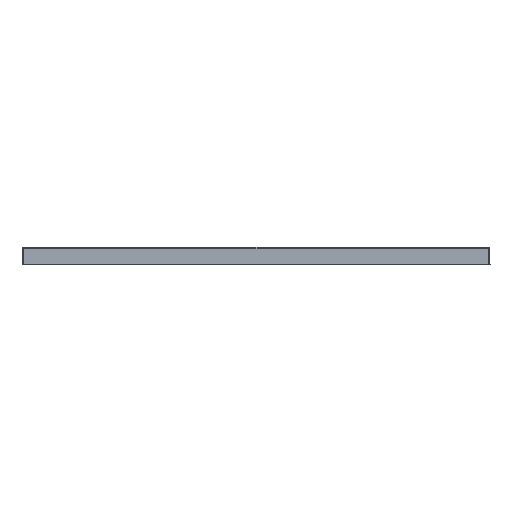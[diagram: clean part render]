
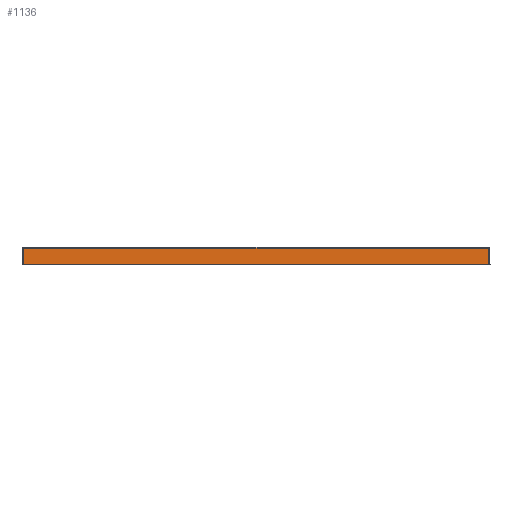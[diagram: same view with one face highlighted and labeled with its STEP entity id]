
A CAD part, front view. The second image highlights one B-rep face of the part: STEP entity #1136.
In plain terms, the highlighted free-form (B-spline) face has degree [1, 1] with [2, 2] control points.
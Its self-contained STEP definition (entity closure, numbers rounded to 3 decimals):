
#20 = VERTEX_POINT ( 'NONE', #490 ) ;
#210 = CARTESIAN_POINT ( 'NONE',  ( -398.46, -1917.307, -17.573 ) ) ;
#490 = CARTESIAN_POINT ( 'NONE',  ( 398.052, -1917.034, -1.965 ) ) ;
#1109 = CARTESIAN_POINT ( 'NONE',  ( 398.46, -1917.307, -17.573 ) ) ;
#1136 = ADVANCED_FACE ( 'NONE', ( #9373 ), #9879, .F. ) ;
#1626 = CARTESIAN_POINT ( 'NONE',  ( -398.786, -1917.524, -30. ) ) ;
#1832 = CARTESIAN_POINT ( 'NONE',  ( -100.147, -1917.034, -1.972 ) ) ;
#2136 = CARTESIAN_POINT ( 'NONE',  ( -398.055, -1917.034, -1.964 ) ) ;
#2514 = CARTESIAN_POINT ( 'NONE',  ( -398.052, -1917.034, -1.965 ) ) ;
#2886 = B_SPLINE_CURVE_WITH_KNOTS ( 'NONE', 1,
 ( #8417, #11007 ),
 .UNSPECIFIED., .F., .F.,
 ( 2, 2 ),
 ( 2., 799.571 ),
 .UNSPECIFIED. ) ;
#3160 = CARTESIAN_POINT ( 'NONE',  ( 370.556, -1917.034, -1.973 ) ) ;
#3951 = CARTESIAN_POINT ( 'NONE',  ( 398.052, -1917.034, -1.965 ) ) ;
#4172 = VERTEX_POINT ( 'NONE', #6664 ) ;
#4316 = CARTESIAN_POINT ( 'NONE',  ( 67.21, -1917.034, -1.971 ) ) ;
#4411 = CARTESIAN_POINT ( 'NONE',  ( 398.052, -1917.034, -1.965 ) ) ;
#4582 = CARTESIAN_POINT ( 'NONE',  ( -398.705, -1917.47, -26.918 ) ) ;
#4590 = CARTESIAN_POINT ( 'NONE',  ( -398.786, -1917.524, -30. ) ) ;
#4708 = EDGE_CURVE ( 'NONE', #12181, #16182, #18034, .T. ) ;
#5721 = CARTESIAN_POINT ( 'NONE',  ( -398.052, -1917.034, -1.965 ) ) ;
#5755 = ORIENTED_EDGE ( 'NONE', *, *, #18727, .T. ) ;
#5817 = CARTESIAN_POINT ( 'NONE',  ( 314.916, -1917.034, -1.966 ) ) ;
#6001 = CARTESIAN_POINT ( 'NONE',  ( -309.659, -1917.034, -1.969 ) ) ;
#6664 = CARTESIAN_POINT ( 'NONE',  ( 398.786, -1917.524, -30. ) ) ;
#7429 = CARTESIAN_POINT ( 'NONE',  ( -245.129, -1917.034, -1.971 ) ) ;
#8417 = CARTESIAN_POINT ( 'NONE',  ( 398.786, -1917.524, -30. ) ) ;
#8769 = CARTESIAN_POINT ( 'NONE',  ( -344.075, -1917.034, -1.968 ) ) ;
#9373 = FACE_OUTER_BOUND ( 'NONE', #11021, .T. ) ;
#9879 = B_SPLINE_SURFACE_WITH_KNOTS ( 'NONE', 1, 1, ( 
 ( #10708, #15160 ),
 ( #17634, #2136 ) ),
 .UNSPECIFIED., .F., .F., .F.,
 ( 2, 2 ),
 ( 2, 2 ),
 ( 2., 799.571 ),
 ( 0., 1. ),
 .UNSPECIFIED. ) ;
#10708 = CARTESIAN_POINT ( 'NONE',  ( 398.786, -1917.524, -30. ) ) ;
#11007 = CARTESIAN_POINT ( 'NONE',  ( -398.786, -1917.524, -30. ) ) ;
#11021 = EDGE_LOOP ( 'NONE', ( #12332, #5755, #16088, #12452 ) ) ;
#11360 = CARTESIAN_POINT ( 'NONE',  ( 398.705, -1917.47, -26.918 ) ) ;
#11810 = CARTESIAN_POINT ( 'NONE',  ( -398.216, -1917.144, -8.229 ) ) ;
#12080 = CARTESIAN_POINT ( 'NONE',  ( -398.052, -1917.034, -1.965 ) ) ;
#12181 = VERTEX_POINT ( 'NONE', #4590 ) ;
#12332 = ORIENTED_EDGE ( 'NONE', *, *, #13298, .F. ) ;
#12452 = ORIENTED_EDGE ( 'NONE', *, *, #4708, .F. ) ;
#13061 = CARTESIAN_POINT ( 'NONE',  ( -390.097, -1917.034, -1.967 ) ) ;
#13298 = EDGE_CURVE ( 'NONE', #4172, #12181, #2886, .T. ) ;
#14052 = CARTESIAN_POINT ( 'NONE',  ( 398.216, -1917.144, -8.229 ) ) ;
#14628 = B_SPLINE_CURVE_WITH_KNOTS ( 'NONE', 3,
 ( #17130, #11360, #1109, #14052, #3951 ),
 .UNSPECIFIED., .F., .F.,
 ( 4, 1, 4 ),
 ( 0.017, 9.267, 28.066 ),
 .UNSPECIFIED. ) ;
#15160 = CARTESIAN_POINT ( 'NONE',  ( 398.055, -1917.034, -1.964 ) ) ;
#15735 = EDGE_CURVE ( 'NONE', #16182, #20, #17353, .T. ) ;
#15976 = CARTESIAN_POINT ( 'NONE',  ( -373.539, -1917.034, -1.965 ) ) ;
#16088 = ORIENTED_EDGE ( 'NONE', *, *, #15735, .F. ) ;
#16170 = CARTESIAN_POINT ( 'NONE',  ( 223.994, -1917.034, -1.972 ) ) ;
#16182 = VERTEX_POINT ( 'NONE', #2514 ) ;
#17130 = CARTESIAN_POINT ( 'NONE',  ( 398.786, -1917.524, -30. ) ) ;
#17353 = B_SPLINE_CURVE_WITH_KNOTS ( 'NONE', 3,
 ( #5721, #13061, #15976, #8769, #6001, #7429, #1832, #4316, #16170, #5817, #3160, #4411 ),
 .UNSPECIFIED., .F., .F.,
 ( 4, 1, 1, 1, 1, 1, 1, 1, 1, 4 ),
 ( 1.949, 25.812, 51.624, 90.342, 129.06, 245.213, 525.287, 631.131, 715.566, 798.052 ),
 .UNSPECIFIED. ) ;
#17634 = CARTESIAN_POINT ( 'NONE',  ( -398.786, -1917.524, -30. ) ) ;
#18034 = B_SPLINE_CURVE_WITH_KNOTS ( 'NONE', 3,
 ( #1626, #4582, #210, #11810, #12080 ),
 .UNSPECIFIED., .F., .F.,
 ( 4, 1, 4 ),
 ( 0.017, 9.267, 28.066 ),
 .UNSPECIFIED. ) ;
#18727 = EDGE_CURVE ( 'NONE', #4172, #20, #14628, .T. ) ;
